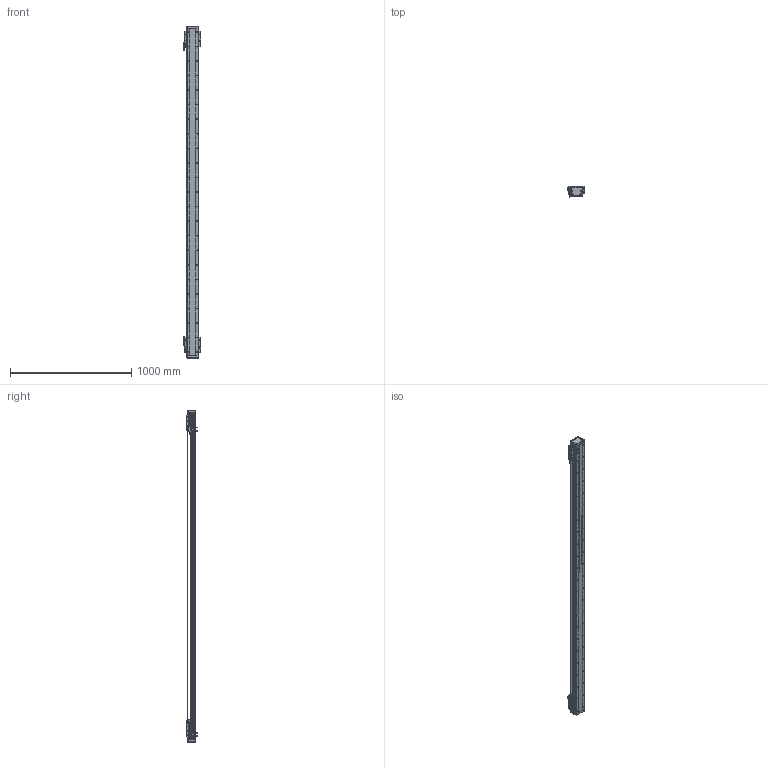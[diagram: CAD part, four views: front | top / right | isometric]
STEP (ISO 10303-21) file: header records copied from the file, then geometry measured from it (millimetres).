
FILE_DESCRIPTION (( 'STEP AP203' ), '1' );
FILE_NAME ('DA-B95-2-B15-T2360-C010-0.2 直线电机.STEP', '2023-05-06T06:39:16', ( '微软用户' ), ( '微软中国' ), 'SwSTEP 2.0', 'SolidWorks 2019', '' );
FILE_SCHEMA (( 'CONFIG_CONTROL_DESIGN' ));
Length unit declared in the file: millimetre
Products named in the file (34): 66245-BU95-V 幗紩賑怢; IU-BU95-L 菁釱絳寢; 复件 DA95-HK-GT-00 滑块钢轨^66245-BU95-V-00 一体化滑动台板; DA-A95-GYP-00 光电感应片^DA-A95-B15-T-C010-0.2-N 直线电机; IU-BU95-L-00 菁釱_L2700; 葩璃 DA95-B15-DP--B-00 菜えB^66245-BU95-V 幗紩賑怢; 葩璃 BKMA01-W060-TRL^DA-A95-B15-T-C010-0.2-N 眻盄萇儂; PM-T45 光电开关^DA-A95-B15-T-C010-0.2-N 直线电机; 复件 六角薄螺母 M3^DA-A95-B15-T-C010-0.2-N 直线电机_GB_FASTENER_NUT_STNAB M3-C; 葩璃 BKM015-W060-C1-TP-DA-0.2^DA-A95-B15-T-C010-0.2-N 眻盄萇儂; 复件 66245-BU95-HT-V-01 滑动台板^66245-BU95-V-00 一体化滑动台板; 66245-BU95-V-00 珨极趙賑雄怢啣; 复件 DA95-DK-00 挡块^66245-BU95-V 滚珠滑台; 复件 复件 18252-0001-003-00 钢带拉块^DA-A95-B15-T-C010-0.2-N 直线电机; DA95-HXJ-00 缓冲橡胶^DA-A95-B15-T-C010-0.2-N 直线电机; 复件 DA95-B15-YB-B-00 压板B^66245-BU95-V 滚珠滑台; DA-B95-2-B15-T2360-C010-0.2 眻盄萇儂; 复件 DA95-MFP-01 密封片^66245-BU95-V 滚珠滑台; 复件 DA95-B15-YB-A-00 压板A^66245-BU95-V 滚珠滑台; 复件 复件 18252-0001-002-00 钢带垫块^DA-A95-B15-T-C010-0.2-N 直线电机; 复件 DA95-B15 钢带盖板^DA-A95-B15-T-C010-0.2-N 直线电机; 复件 纯铜油杯 6x6mm^66245-BU95-V 滚珠滑台; 复件 DA95-DB-00  挡板^66245-BU95-V 滚珠滑台; 葩璃 DA95-GT-T-00^IU-BU95-L 菁釱絳寢_DA95; 复件 DKW-HXJ-JY-00 缓冲橡胶^DA-A95-B15-T-C010-0.2-N 直线电机; 葩璃 PM-Y45^DA-A95-B15-T-C010-0.2-N 眻盄萇儂; 葩璃 DA95-B15-DP-A-00 菜えA^66245-BU95-V 幗紩賑怢; 复件 DKW-KGZ-ZJ-00 中间光电开关支架^DA-A95-B15-T-C010-0.2-N 直线电机; B15 XD-U-02L ｴﾅﾕ､ｳﾟ^DA-A95-B15-T-C010-0.2-N ﾖｱﾏﾟｵ扈銈XD-U-02L; 复件 DKW-GYP-ZJ-00 中间光电感应片^DA-A95-B15-T-C010-0.2-N 直线电机; LMDK-2-R001-V5-L02-C1-F00，0.2M 读数头^DA-A95-B15-T-C010-0.2-N 直线电机_DMA-010-0.2; 复件 复件 18252-0001-004-00 钢带端盖^DA-A95-B15-T-C010-0.2-N 直线电机
Assembly tree (80 placements, depth 4):
  DA-B95-2-B15-T2360-C010-0.2 眻盄萇儂
    IU-BU95-L 菁釱絳寢
      IU-BU95-L-00 菁釱_L2700
      葩璃 DA95-GT-T-00^IU-BU95-L 菁釱絳寢_DA95  x2
    66245-BU95-V 幗紩賑怢
      66245-BU95-V-00 珨极趙賑雄怢啣
        复件 66245-BU95-HT-V-01 滑动台板^66245-BU95-V-00 一体化滑动台板
        复件 DA95-HK-GT-00 滑块钢轨^66245-BU95-V-00 一体化滑动台板  x2
      葩璃 DA95-B15-DP-A-00 菜えA^66245-BU95-V 幗紩賑怢
      复件 DA95-B15-YB-A-00 压板A^66245-BU95-V 滚珠滑台
      复件 DA95-B15-YB-B-00 压板B^66245-BU95-V 滚珠滑台
      复件 DA95-DB-00  挡板^66245-BU95-V 滚珠滑台  x4
      复件 DA95-DK-00 挡块^66245-BU95-V 滚珠滑台  x2
      复件 DA95-MFP-01 密封片^66245-BU95-V 滚珠滑台  x4
      复件 纯铜油杯 6x6mm^66245-BU95-V 滚珠滑台  x2
      葩璃 DA95-B15-DP--B-00 菜えB^66245-BU95-V 幗紩賑怢
    66245-BU95-V 幗紩賑怢
      66245-BU95-V-00 珨极趙賑雄怢啣
        复件 66245-BU95-HT-V-01 滑动台板^66245-BU95-V-00 一体化滑动台板
        复件 DA95-HK-GT-00 滑块钢轨^66245-BU95-V-00 一体化滑动台板  x2
      葩璃 DA95-B15-DP-A-00 菜えA^66245-BU95-V 幗紩賑怢
      复件 DA95-B15-YB-A-00 压板A^66245-BU95-V 滚珠滑台
      复件 DA95-B15-YB-B-00 压板B^66245-BU95-V 滚珠滑台
      复件 DA95-DB-00  挡板^66245-BU95-V 滚珠滑台  x4
      复件 DA95-DK-00 挡块^66245-BU95-V 滚珠滑台  x2
      复件 DA95-MFP-01 密封片^66245-BU95-V 滚珠滑台  x4
      复件 纯铜油杯 6x6mm^66245-BU95-V 滚珠滑台  x2
      葩璃 DA95-B15-DP--B-00 菜えB^66245-BU95-V 幗紩賑怢
    DA-A95-GYP-00 光电感应片^DA-A95-B15-T-C010-0.2-N 直线电机  x2
    LMDK-2-R001-V5-L02-C1-F00，0.2M 读数头^DA-A95-B15-T-C010-0.2-N 直线电机_DMA-010-0.2  x2
    复件 DKW-KGZ-ZJ-00 中间光电开关支架^DA-A95-B15-T-C010-0.2-N 直线电机
    葩璃 PM-Y45^DA-A95-B15-T-C010-0.2-N 眻盄萇儂
    复件 DKW-GYP-ZJ-00 中间光电感应片^DA-A95-B15-T-C010-0.2-N 直线电机
    葩璃 BKM015-W060-C1-TP-DA-0.2^DA-A95-B15-T-C010-0.2-N 眻盄萇儂  x2
    复件 DKW-HXJ-JY-00 缓冲橡胶^DA-A95-B15-T-C010-0.2-N 直线电机  x2
    PM-T45 光电开关^DA-A95-B15-T-C010-0.2-N 直线电机  x4
    B15 XD-U-02L ｴﾅﾕ､ｳﾟ^DA-A95-B15-T-C010-0.2-N ﾖｱﾏﾟｵ扈銈XD-U-02L
    复件 复件 18252-0001-003-00 钢带拉块^DA-A95-B15-T-C010-0.2-N 直线电机  x2
    复件 复件 18252-0001-002-00 钢带垫块^DA-A95-B15-T-C010-0.2-N 直线电机  x2
    复件 复件 18252-0001-004-00 钢带端盖^DA-A95-B15-T-C010-0.2-N 直线电机  x2
    复件 DA95-B15 钢带盖板^DA-A95-B15-T-C010-0.2-N 直线电机
    DA95-HXJ-00 缓冲橡胶^DA-A95-B15-T-C010-0.2-N 直线电机  x4
    葩璃 BKMA01-W060-TRL^DA-A95-B15-T-C010-0.2-N 眻盄萇儂
    复件 六角薄螺母 M3^DA-A95-B15-T-C010-0.2-N 直线电机_GB_FASTENER_NUT_STNAB M3-C  x6
Bounding box: 145.4 x 90.2 x 2736 mm (x, y, z)
Volume: 8791323.5 mm3; surface area: 2919606 mm2
Topology: 75 solids, 93 shells, 4288 faces, 12148 edges, 7711 vertices
Faces by surface type: cylinder 2221, plane 1535, cone 464, torus 64, sphere 4
Entity records: 105752 total; most frequent: CARTESIAN_POINT 28074, ORIENTED_EDGE 15654, DIRECTION 15060, EDGE_CURVE 7827, AXIS2_PLACEMENT_3D 5737, VERTEX_POINT 5113, VECTOR 3586, LINE 3586
